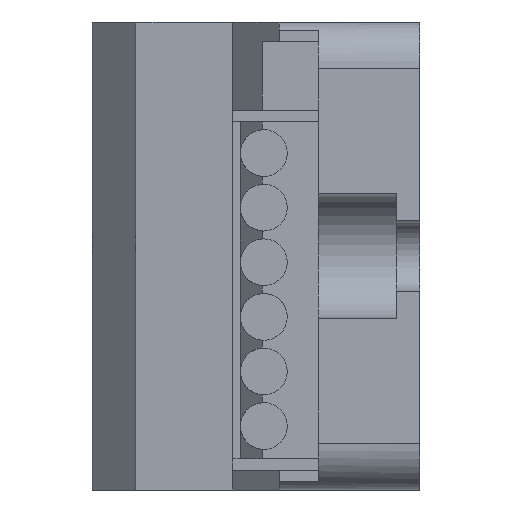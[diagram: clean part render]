
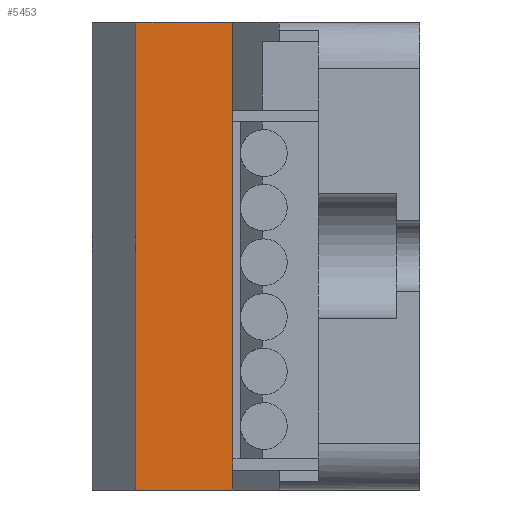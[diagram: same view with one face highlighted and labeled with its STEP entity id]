
A CAD part, left-side view. The second image highlights one B-rep face of the part: STEP entity #5453.
In plain terms, the highlighted planar face has unit normal (-1, 0.018, 0).
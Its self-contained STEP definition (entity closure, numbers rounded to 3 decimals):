
#1724=DIRECTION('',(0.,0.,1.));
#1725=VECTOR('',#1724,30.);
#1726=CARTESIAN_POINT('',(-62.829,18.2,-15.));
#1727=LINE('',#1726,#1725);
#1731=DIRECTION('',(0.,0.,1.));
#1732=VECTOR('',#1731,0.75);
#1733=CARTESIAN_POINT('',(-62.937,12.,-13.75));
#1734=LINE('',#1733,#1732);
#1738=DIRECTION('',(0.017,1.,0.));
#1739=VECTOR('',#1738,6.201);
#1740=CARTESIAN_POINT('',(-62.937,12.,-15.));
#1741=LINE('',#1740,#1739);
#1745=DIRECTION('',(-0.017,-1.,0.));
#1746=VECTOR('',#1745,6.201);
#1747=CARTESIAN_POINT('',(-62.829,18.2,15.));
#1748=LINE('',#1747,#1746);
#1752=DIRECTION('',(0.,0.,-1.));
#1753=VECTOR('',#1752,0.75);
#1754=CARTESIAN_POINT('',(-62.937,12.,9.35));
#1755=LINE('',#1754,#1753);
#1814=DIRECTION('',(0.,0.,1.));
#1815=VECTOR('',#1814,1.25);
#1816=CARTESIAN_POINT('',(-62.937,12.,-15.));
#1817=LINE('',#1816,#1815);
#1836=DIRECTION('',(0.,0.,1.));
#1837=VECTOR('',#1836,5.65);
#1838=CARTESIAN_POINT('',(-62.937,12.,9.35));
#1839=LINE('',#1838,#1837);
#1857=DIRECTION('',(0.,0.,1.));
#1858=VECTOR('',#1857,21.6);
#1859=CARTESIAN_POINT('',(-62.937,12.,-13.));
#1860=LINE('',#1859,#1858);
#3669=CARTESIAN_POINT('',(-62.829,18.2,-15.));
#3671=VERTEX_POINT('',#3669);
#3677=CARTESIAN_POINT('',(-62.829,18.2,15.));
#3679=VERTEX_POINT('',#3677);
#3689=CARTESIAN_POINT('',(-62.937,12.,-15.));
#3691=VERTEX_POINT('',#3689);
#3697=CARTESIAN_POINT('',(-62.937,12.,15.));
#3699=VERTEX_POINT('',#3697);
#4012=CARTESIAN_POINT('',(-62.937,12.,-13.75));
#4013=VERTEX_POINT('',#4012);
#4203=CARTESIAN_POINT('',(-62.937,12.,9.35));
#4204=CARTESIAN_POINT('',(-62.937,12.,8.6));
#4205=VERTEX_POINT('',#4203);
#4206=VERTEX_POINT('',#4204);
#4237=CARTESIAN_POINT('',(-62.937,12.,-13.));
#4238=VERTEX_POINT('',#4237);
#5433=CARTESIAN_POINT('',(-62.888,14.8,17.5));
#5434=DIRECTION('',(1.,-0.017,0.));
#5435=DIRECTION('',(0.017,1.,0.));
#5436=AXIS2_PLACEMENT_3D('',#5433,#5434,#5435);
#5437=PLANE('',#5436);
#5439=ORIENTED_EDGE('',*,*,#5438,.F.);
#5441=ORIENTED_EDGE('',*,*,#5440,.F.);
#5443=ORIENTED_EDGE('',*,*,#5442,.F.);
#5444=ORIENTED_EDGE('',*,*,#4298,.T.);
#5445=ORIENTED_EDGE('',*,*,#5428,.T.);
#5446=ORIENTED_EDGE('',*,*,#5003,.T.);
#5448=ORIENTED_EDGE('',*,*,#5447,.F.);
#5450=ORIENTED_EDGE('',*,*,#5449,.T.);
#5451=EDGE_LOOP('',(#5439,#5441,#5443,#5444,#5445,#5446,#5448,#5450));
#5452=FACE_OUTER_BOUND('',#5451,.F.);
#4298=EDGE_CURVE('',#3691,#3671,#1741,.T.);
#5003=EDGE_CURVE('',#3679,#3699,#1748,.T.);
#5428=EDGE_CURVE('',#3671,#3679,#1727,.T.);
#5438=EDGE_CURVE('',#4238,#4206,#1860,.T.);
#5440=EDGE_CURVE('',#4013,#4238,#1734,.T.);
#5442=EDGE_CURVE('',#3691,#4013,#1817,.T.);
#5447=EDGE_CURVE('',#4205,#3699,#1839,.T.);
#5449=EDGE_CURVE('',#4205,#4206,#1755,.T.);
#5453=ADVANCED_FACE('',(#5452),#5437,.F.);
